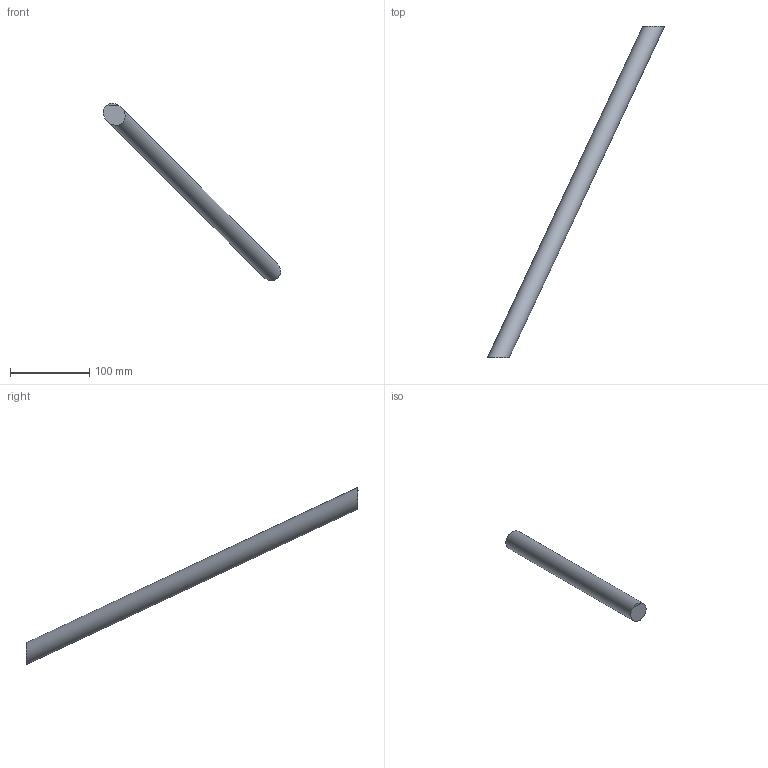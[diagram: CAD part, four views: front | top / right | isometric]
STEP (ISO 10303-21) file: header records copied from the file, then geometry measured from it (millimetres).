
FILE_DESCRIPTION(/* description */ ('FOLDING 52 2-WAY CORNER 90'),/* implementation_level */ '2;1');
FILE_NAME(/* name */ 'M:\Symbolen_NIEUW\STP\Corners\S52F\S52F-C003_111100022.stp',/* time_stamp */ '2017-11-16T09:38:10+01:00',/* author */ ('Kees'),/* organization */ (''),/* preprocessor_version */ 'ST-DEVELOPER v16.13',/* originating_system */ 'Autodesk Inventor 2018',/* authorisation */ '');
FILE_SCHEMA (('AUTOMOTIVE_DESIGN { 1 0 10303 214 3 1 1 }'));
Length unit declared in the file: millimetre
Products named in the file (1): 260019875
Bounding box: 224.18 x 420 x 224.19 mm (x, y, z)
Volume: 247245.8 mm3; surface area: 40736.7 mm2
Topology: 1 solids, 1 shells, 6 faces, 11 edges, 7 vertices
Faces by surface type: plane 5, cylinder 1
Full cylindrical faces by diameter (mm): 25 x1
Entity records: 220 total; most frequent: DIRECTION 29, CARTESIAN_POINT 22, ORIENTED_EDGE 18, AXIS2_PLACEMENT_3D 13, EDGE_CURVE 9, EDGE_LOOP 7, STYLED_ITEM 7, PRESENTATION_STYLE_ASSIGNMENT 7
